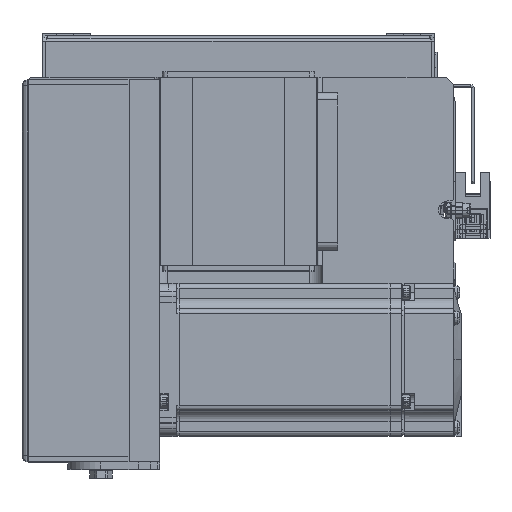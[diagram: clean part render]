
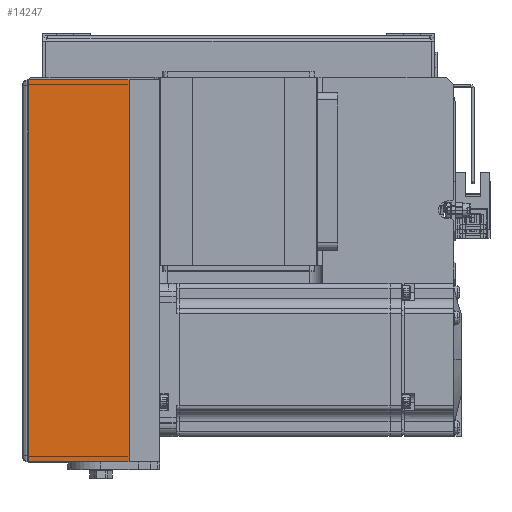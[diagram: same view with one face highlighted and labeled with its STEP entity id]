
A CAD part, top view. The second image highlights one B-rep face of the part: STEP entity #14247.
In plain terms, the highlighted planar face has unit normal (0, 0, 1) as drawn and (0, -1, 0) by its records, which use the part's own axes.
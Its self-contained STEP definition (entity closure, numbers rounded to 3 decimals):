
#1607 = CARTESIAN_POINT ( 'NONE',  ( 75., -36., 12. ) ) ;
#3014 = EDGE_LOOP ( 'NONE', ( #16947, #24955, #10426, #30150 ) ) ;
#3704 = CARTESIAN_POINT ( 'NONE',  ( 0., -36., 52. ) ) ;
#5148 = DIRECTION ( 'NONE',  ( 0., 0., -1. ) ) ;
#5516 = CARTESIAN_POINT ( 'NONE',  ( -75., -36., 51.5 ) ) ;
#6399 = CARTESIAN_POINT ( 'NONE',  ( 0., -36., 12. ) ) ;
#7887 = VERTEX_POINT ( 'NONE', #14221 ) ;
#10426 = ORIENTED_EDGE ( 'NONE', *, *, #27577, .T. ) ;
#10652 = DIRECTION ( 'NONE',  ( 0., 0., -1. ) ) ;
#11132 = VECTOR ( 'NONE', #31265, 1000. ) ;
#13123 = EDGE_CURVE ( 'NONE', #7887, #22909, #34456, .T. ) ;
#13828 = FACE_OUTER_BOUND ( 'NONE', #3014, .T. ) ;
#14221 = CARTESIAN_POINT ( 'NONE',  ( -75., -36., 51.5 ) ) ;
#14247 = ADVANCED_FACE ( 'NONE', ( #13828 ), #39626, .F. ) ;
#16752 = LINE ( 'NONE', #6399, #35022 ) ;
#16947 = ORIENTED_EDGE ( 'NONE', *, *, #27439, .F. ) ;
#19538 = DIRECTION ( 'NONE',  ( 0., 1., 0. ) ) ;
#20115 = DIRECTION ( 'NONE',  ( 1., 0., 0. ) ) ;
#20606 = VERTEX_POINT ( 'NONE', #36894 ) ;
#21292 = CARTESIAN_POINT ( 'NONE',  ( -75., -36., 12. ) ) ;
#22909 = VERTEX_POINT ( 'NONE', #21292 ) ;
#24113 = LINE ( 'NONE', #39794, #34069 ) ;
#24359 = VERTEX_POINT ( 'NONE', #1607 ) ;
#24955 = ORIENTED_EDGE ( 'NONE', *, *, #13123, .T. ) ;
#27439 = EDGE_CURVE ( 'NONE', #7887, #20606, #31721, .T. ) ;
#27577 = EDGE_CURVE ( 'NONE', #22909, #24359, #16752, .T. ) ;
#30150 = ORIENTED_EDGE ( 'NONE', *, *, #36571, .F. ) ;
#30263 = VECTOR ( 'NONE', #37884, 1000. ) ;
#30415 = AXIS2_PLACEMENT_3D ( 'NONE', #3704, #19538, #10652 ) ;
#31265 = DIRECTION ( 'NONE',  ( 0., 0., -1. ) ) ;
#31721 = LINE ( 'NONE', #41287, #30263 ) ;
#34069 = VECTOR ( 'NONE', #5148, 1000. ) ;
#34456 = LINE ( 'NONE', #5516, #11132 ) ;
#35022 = VECTOR ( 'NONE', #20115, 1000. ) ;
#36571 = EDGE_CURVE ( 'NONE', #20606, #24359, #24113, .T. ) ;
#36894 = CARTESIAN_POINT ( 'NONE',  ( 75., -36., 51.5 ) ) ;
#37884 = DIRECTION ( 'NONE',  ( 1., 0., 0. ) ) ;
#39626 = PLANE ( 'NONE',  #30415 ) ;
#39794 = CARTESIAN_POINT ( 'NONE',  ( 75., -36., 51.5 ) ) ;
#41287 = CARTESIAN_POINT ( 'NONE',  ( 75., -36., 51.5 ) ) ;
